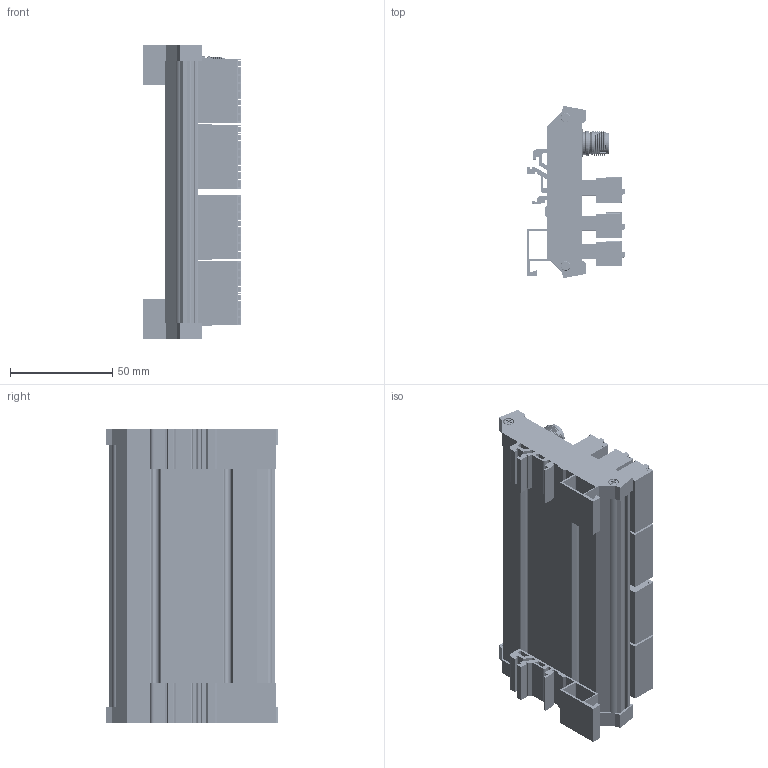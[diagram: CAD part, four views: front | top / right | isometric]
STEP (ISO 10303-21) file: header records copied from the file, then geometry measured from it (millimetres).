
FILE_DESCRIPTION (( 'STEP AP203' ), '1' );
FILE_NAME ('00BH13&BH14.STEP', '2021-01-13T02:35:36', ( '' ), ( '' ), 'SwSTEP 2.0', 'SolidWorks 2016', '' );
FILE_SCHEMA (( 'CONFIG_CONTROL_DESIGN' ));
Products named in the file (1): 00BH13&BH14
Bounding box: 47.8 x 84 x 144 mm (x, y, z)
Surface area: 125578.7 mm2 (no closed solid volume)
Topology: 0 solids, 95 shells, 9825 faces, 25565 edges, 16253 vertices
Faces by surface type: plane 5681, cylinder 2692, bspline 788, cone 664
Entity records: 333692 total; most frequent: CARTESIAN_POINT 96962, ORIENTED_EDGE 50738, DIRECTION 47259, EDGE_CURVE 25371, LINE 16945, VECTOR 16945, VERTEX_POINT 16252, AXIS2_PLACEMENT_3D 15157
